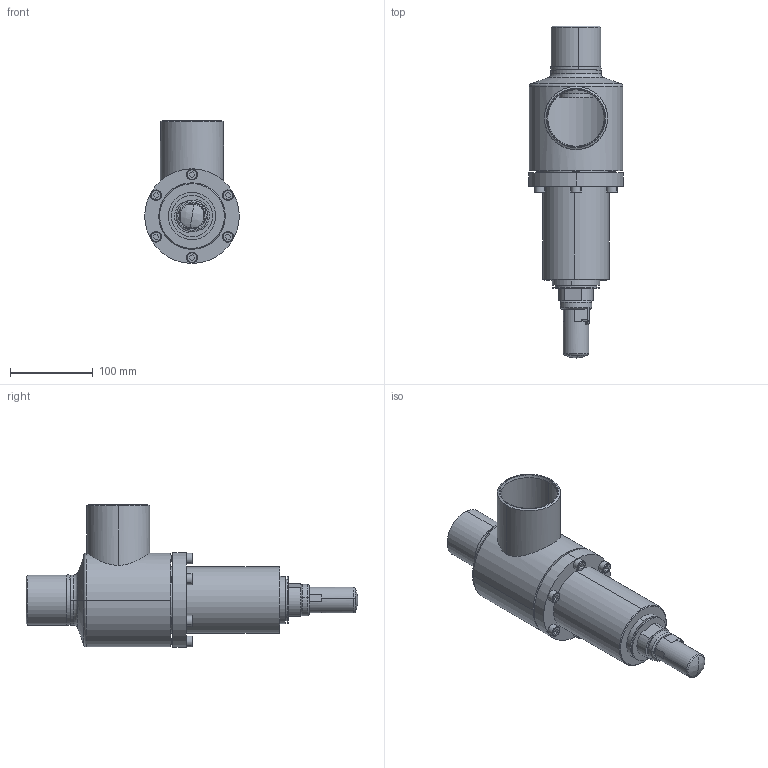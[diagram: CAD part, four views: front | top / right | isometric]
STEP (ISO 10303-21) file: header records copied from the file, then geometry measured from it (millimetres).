
FILE_DESCRIPTION (( 'STEP AP214' ), '1' );
FILE_NAME ('ORV 452AE-C15-DN50''65_R1_PS25.STEP', '2010-06-17T08:37:56', ( 'Eckhard Grams' ), ( 'AWP Kälte Klima Armaturen GmbH' ), 'SwSTEP 2.0', 'SolidWorks 2002296', '' );
FILE_SCHEMA (( 'AUTOMOTIVE_DESIGN' ));
Length unit declared in the file: millimetre
Products named in the file (11): ORV 452AE-C15-DN50''65_R1_PS25; Deckel_ORV_DN40-50_Standard; Haube-ORV-DN40-50_Standard; Loser-FL44331.14-DN40-SVU_PS25_(DN40-50-SVA-ORV)_Standard; Geh-kpl43200B15-DN50''65_R1_PS25_Standard; Geh-körper,kpl43200B15-DN50_PS25_R1_Standard; Rohrstutzen43200E15-DN50''65_R1_STANDARD; Rohrstutzen-E43200E15-DN50_R1_STANDARD; bead43200B15-Geh-kpl-PS25_Standard; Kappe SVA-SVU-ORV_DN10-40 (M27x1,5)_Standard; Zylinderschraube-DIN912-M 8x30_M 8x 25
Assembly tree (15 placements, depth 3):
  ORV 452AE-C15-DN50''65_R1_PS25
    Loser-FL44331.14-DN40-SVU_PS25_(DN40-50-SVA-ORV)_Standard
    Haube-ORV-DN40-50_Standard
    Zylinderschraube-DIN912-M 8x30_M 8x 25  x6
    Deckel_ORV_DN40-50_Standard
    Kappe SVA-SVU-ORV_DN10-40 (M27x1,5)_Standard
    Geh-kpl43200B15-DN50''65_R1_PS25_Standard
      bead43200B15-Geh-kpl-PS25_Standard
      Rohrstutzen-E43200E15-DN50_R1_STANDARD
      Rohrstutzen43200E15-DN50''65_R1_STANDARD
      Geh-körper,kpl43200B15-DN50_PS25_R1_Standard
Bounding box: 114 x 400 x 172 mm (x, y, z)
Volume: 809584.1 mm3; surface area: 286183.5 mm2
Topology: 14 solids, 14 shells, 647 faces, 1668 edges, 1071 vertices
Faces by surface type: cylinder 398, plane 114, cone 70, torus 37, bspline 24, sphere 4
Entity records: 24247 total; most frequent: CARTESIAN_POINT 15374, ORIENTED_EDGE 1698, DIRECTION 1629, EDGE_CURVE 849, AXIS2_PLACEMENT_3D 665, VERTEX_POINT 541, EDGE_LOOP 408, ADVANCED_FACE 352
